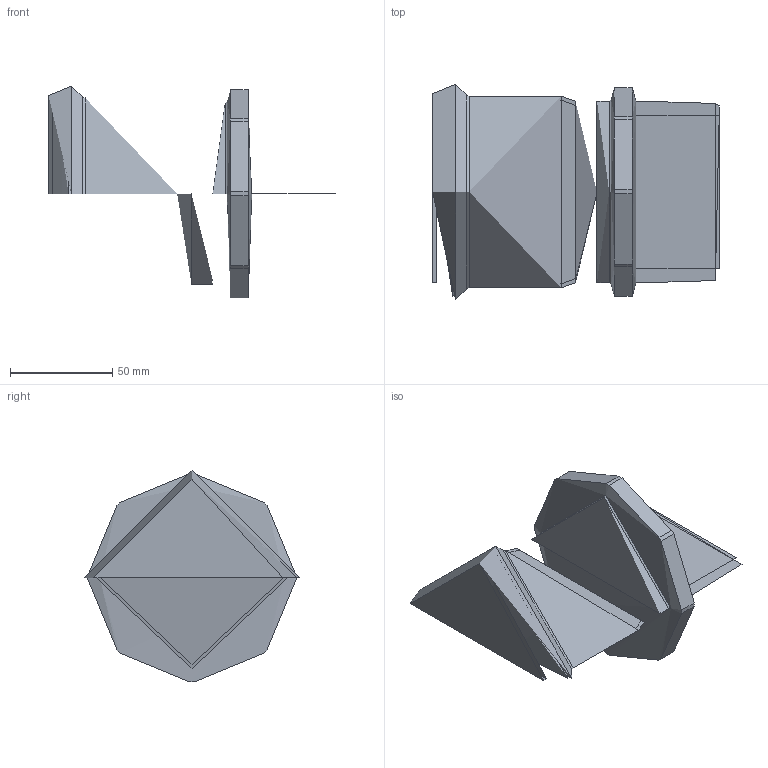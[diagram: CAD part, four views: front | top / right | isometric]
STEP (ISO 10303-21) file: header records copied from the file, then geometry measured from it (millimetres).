
FILE_DESCRIPTION(('FreeCAD Model'),'2;1');
FILE_NAME('Open CASCADE Shape Model','2025-10-20T15:01:21',('Author'),( ''),'Open CASCADE STEP processor 7.8','FreeCAD','Unknown');
FILE_SCHEMA(('AUTOMOTIVE_DESIGN { 1 0 10303 214 1 1 1 1 }'));
Length unit declared in the file: millimetre
Products named in the file (7): Unnamed155; COMPOUND; COMPOUND001; X-Achse; XY-Ebene; COMPOUND002; COMPOUND003
Assembly tree (18 placements, depth 3):
  Unnamed155
    COMPOUND
    COMPOUND001
      COMPOUND
    X-Achse  x6
    XY-Ebene  x6
    COMPOUND002
    COMPOUND003
      COMPOUND002
Bounding box: 140.5 x 105.53 x 103.76 mm (x, y, z)
Volume: 312377.7 mm3; surface area: 178489.9 mm2
Topology: 4 solids, 4 shells, 86 faces, 268 edges, 186 vertices
Faces by surface type: bspline 86
Entity records: 2046 total; most frequent: CARTESIAN_POINT 1144, ORIENTED_EDGE 262, EDGE_CURVE 131, VERTEX_POINT 93, FACE_BOUND 48, EDGE_LOOP 48, ADVANCED_FACE 43, DIRECTION 39
